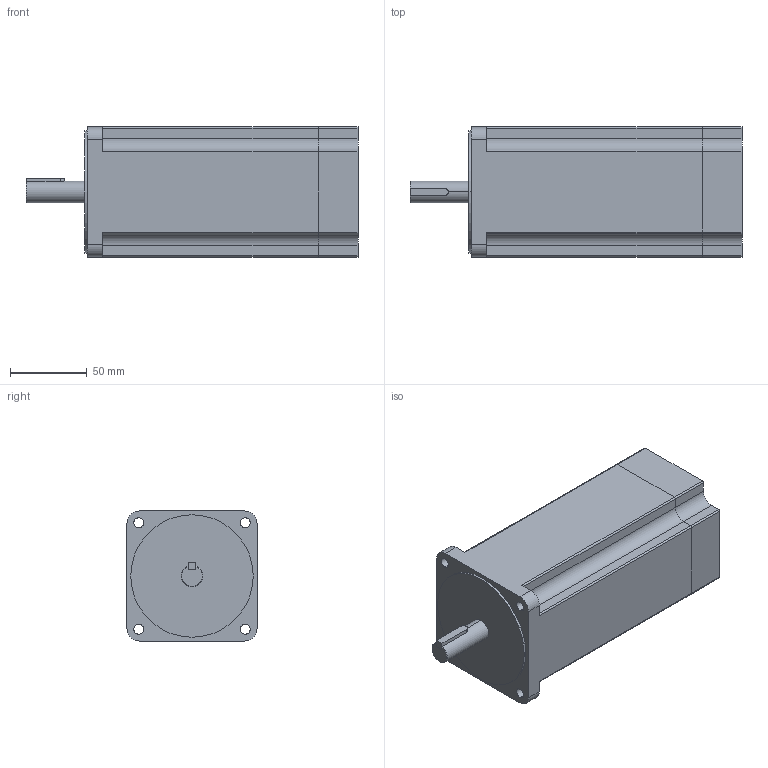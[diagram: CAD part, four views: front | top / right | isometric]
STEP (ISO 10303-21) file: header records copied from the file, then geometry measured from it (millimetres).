
FILE_DESCRIPTION (( 'STEP AP203' ), '1' );
FILE_NAME ('TM3403A60A-P1000.STEP', '2019-02-16T06:03:06', ( 'User' ), ( 'www.dadighost.com' ), 'SwSTEP 2.0', 'SolidWorks 2014', '' );
FILE_SCHEMA (( 'CONFIG_CONTROL_DESIGN' ));
Length unit declared in the file: millimetre
Products named in the file (1): TM3403A60A-P1000
Bounding box: 217 x 85 x 85 mm (x, y, z)
Volume: 1142739.9 mm3; surface area: 87583.2 mm2
Topology: 3 solids, 3 shells, 87 faces, 235 edges, 156 vertices
Faces by surface type: cylinder 43, plane 42, cone 2
Entity records: 2878 total; most frequent: CARTESIAN_POINT 517, DIRECTION 493, ORIENTED_EDGE 470, EDGE_CURVE 235, AXIS2_PLACEMENT_3D 174, VERTEX_POINT 156, VECTOR 145, LINE 145
